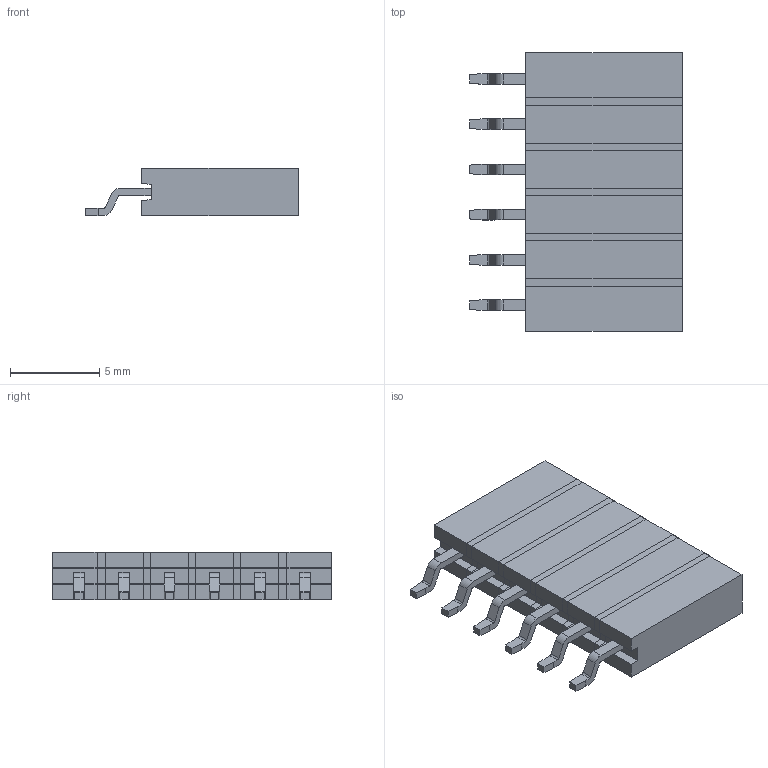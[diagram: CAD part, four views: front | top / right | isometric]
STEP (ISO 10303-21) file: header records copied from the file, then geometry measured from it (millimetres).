
FILE_DESCRIPTION(('FreeCAD Model'),'2;1');
FILE_NAME('Open CASCADE Shape Model','2025-02-26T22:01:38',( 'Krisjanis Rijnieks'),(''),'Open CASCADE STEP processor 7.7', 'FreeCAD','Unknown');
FILE_SCHEMA(('AUTOMOTIVE_DESIGN { 1 0 10303 214 1 1 1 1 }'));
Length unit declared in the file: millimetre
Products named in the file (23): 01x06_P2.54mm_Horizontal_SMD; 01x02_P2.54mm_Horizontal_SMD005; 01x01_P2.54mm_Horizontal_SMD015; HorizontalLead015; HorizontalSocket015; 01x01_P2.54mm_Horizontal_SMD016; HorizontalLead016; HorizontalSocket016; 01x04_P2.54mm_Horizontal_SMD001; 01x01_P2.54mm_Horizontal_SMD017; HorizontalLead017; HorizontalSocket017; 01x03_P2.54mm_Horizontal_SMD003; 01x01_P2.54mm_Horizontal_SMD018; HorizontalLead018; HorizontalSocket018; 01x02_P2.54mm_Horizontal_SMD006; 01x01_P2.54mm_Horizontal_SMD019; HorizontalLead019; HorizontalSocket019; 01x01_P2.54mm_Horizontal_SMD020; HorizontalLead020; HorizontalSocket020
Assembly tree (22 placements, depth 6):
  01x06_P2.54mm_Horizontal_SMD
    01x02_P2.54mm_Horizontal_SMD005
      01x01_P2.54mm_Horizontal_SMD015
        HorizontalLead015
        HorizontalSocket015
      01x01_P2.54mm_Horizontal_SMD016
        HorizontalLead016
        HorizontalSocket016
    01x04_P2.54mm_Horizontal_SMD001
      01x01_P2.54mm_Horizontal_SMD017
        HorizontalLead017
        HorizontalSocket017
      01x03_P2.54mm_Horizontal_SMD003
        01x01_P2.54mm_Horizontal_SMD018
          HorizontalLead018
          HorizontalSocket018
        01x02_P2.54mm_Horizontal_SMD006
          01x01_P2.54mm_Horizontal_SMD019
            HorizontalLead019
            HorizontalSocket019
          01x01_P2.54mm_Horizontal_SMD020
            HorizontalLead020
            HorizontalSocket020
Bounding box: 11.95 x 15.64 x 2.65 mm (x, y, z)
Volume: 385.7 mm3; surface area: 891 mm2
Topology: 12 solids, 12 shells, 210 faces, 516 edges, 336 vertices
Faces by surface type: plane 186, cylinder 24
Entity records: 6583 total; most frequent: CARTESIAN_POINT 1085, ORIENTED_EDGE 1032, DIRECTION 1030, EDGE_CURVE 516, LINE 468, VECTOR 468, VERTEX_POINT 336, AXIS2_PLACEMENT_3D 281
